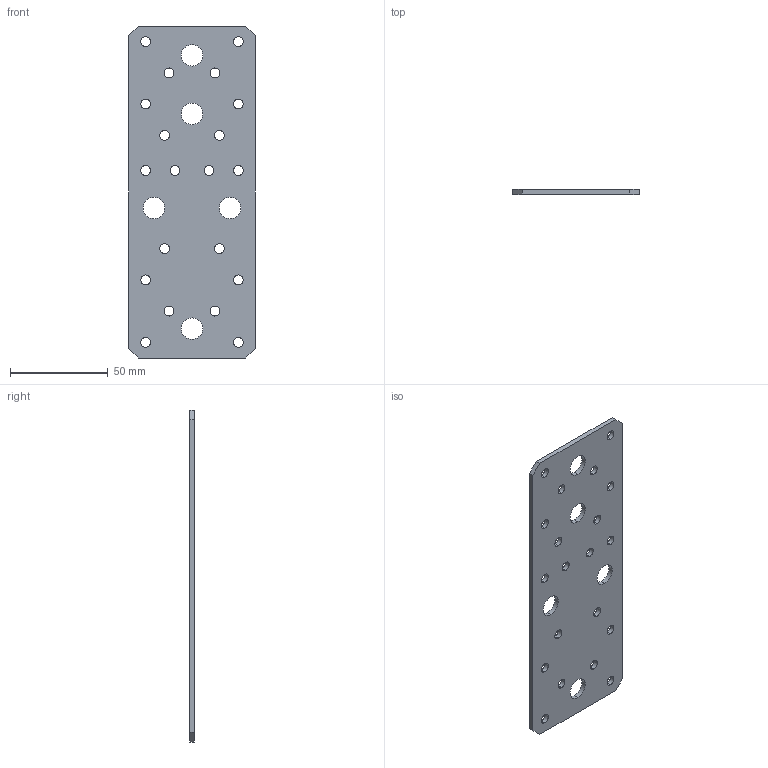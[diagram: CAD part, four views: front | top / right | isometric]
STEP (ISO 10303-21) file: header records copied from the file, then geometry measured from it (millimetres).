
FILE_DESCRIPTION (( 'STEP AP203' ), '1' );
FILE_NAME ('1865.STEP', '2019-12-10T12:51:32', ( '' ), ( '' ), 'SwSTEP 2.0', 'SolidWorks 2013', '' );
FILE_SCHEMA (( 'CONFIG_CONTROL_DESIGN' ));
Length unit declared in the file: millimetre
Products named in the file (1): 1865
Bounding box: 65 x 2.5 x 170 mm (x, y, z)
Volume: 25330.3 mm3; surface area: 22627.3 mm2
Topology: 1 solids, 1 shells, 60 faces, 174 edges, 116 vertices
Faces by surface type: cylinder 50, plane 10
Entity records: 2215 total; most frequent: DIRECTION 396, CARTESIAN_POINT 351, ORIENTED_EDGE 348, EDGE_CURVE 174, AXIS2_PLACEMENT_3D 161, VERTEX_POINT 116, EDGE_LOOP 110, CIRCLE 100
